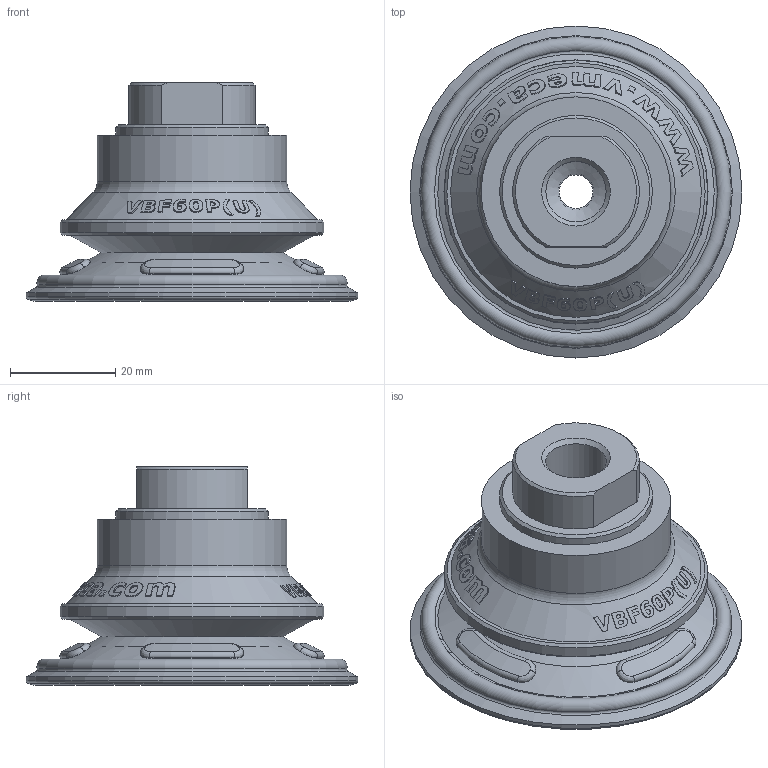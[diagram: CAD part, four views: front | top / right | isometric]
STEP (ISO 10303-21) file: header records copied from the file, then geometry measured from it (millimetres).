
FILE_DESCRIPTION( ( 'Unknown' ), '1' );
FILE_NAME( 'D:/濛機奢濰/Vacuum Pads/VBF/VBF60/STP/VBF60 P(U)_14F.stp', 'Unknown', ( 'Unknown' ), ( 'Unknown' ), 'XStep 1.0', 'Unknown', ' ' );
FILE_SCHEMA( ( 'automotive_design' ) );
Length unit declared in the file: millimetre
Products named in the file (1): 1
Bounding box: 63 x 63 x 41.5 mm (x, y, z)
Volume: 28502.7 mm3; surface area: 16092.9 mm2
Topology: 1 solids, 1 shells, 319 faces, 761 edges, 490 vertices
Faces by surface type: bspline 204, cone 59, plane 20, cylinder 19, torus 17
Full cylindrical faces by diameter (mm): 5 x8, 7 x1, 11.445 x2, 12 x1, 28 x1, 29 x1, 36 x1, 49.995 x1, 63 x1
Entity records: 21871 total; most frequent: CARTESIAN_POINT 13831, ORIENTED_EDGE 1422, EDGE_CURVE 711, B_SPLINE_CURVE_WITH_KNOTS 588, VERTEX_POINT 485, DIRECTION 470, EDGE_LOOP 412, FACE_OUTER_BOUND 349
